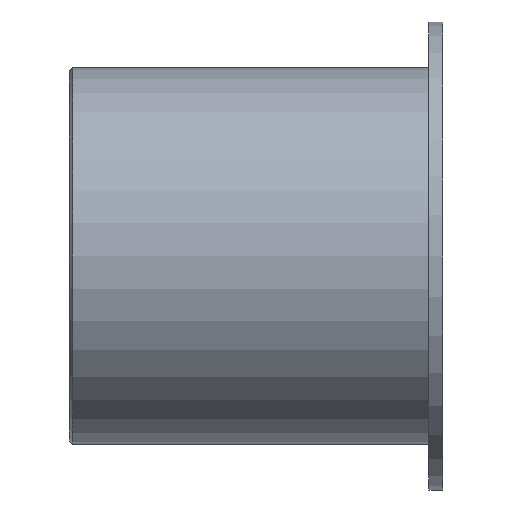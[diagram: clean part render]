
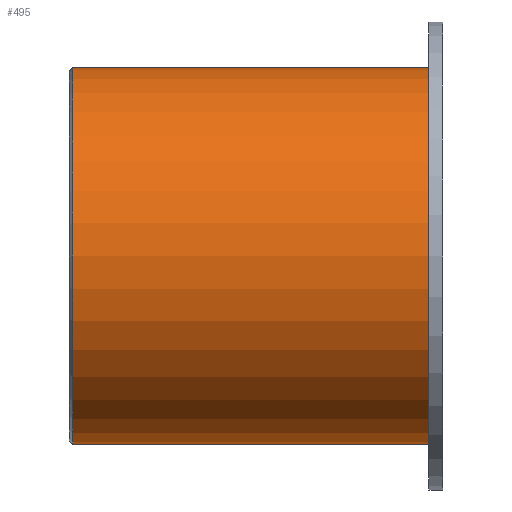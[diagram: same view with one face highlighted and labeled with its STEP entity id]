
A CAD part, front view. The second image highlights one B-rep face of the part: STEP entity #495.
In plain terms, the highlighted cylindrical face has radius 27 mm (diameter 54 mm), a full revolution.
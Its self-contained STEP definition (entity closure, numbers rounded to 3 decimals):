
#18=CYLINDRICAL_SURFACE('',#547,27.);
#36=FACE_BOUND('',#97,.T.);
#63=FACE_OUTER_BOUND('',#96,.T.);
#96=EDGE_LOOP('',(#397));
#97=EDGE_LOOP('',(#398));
#195=CIRCLE('',#546,27.);
#196=CIRCLE('',#548,27.);
#242=VERTEX_POINT('',#832);
#243=VERTEX_POINT('',#835);
#301=EDGE_CURVE('',#242,#242,#195,.T.);
#302=EDGE_CURVE('',#243,#243,#196,.T.);
#397=ORIENTED_EDGE('',*,*,#302,.T.);
#398=ORIENTED_EDGE('',*,*,#301,.F.);
#495=ADVANCED_FACE('',(#63,#36),#18,.T.);
#546=AXIS2_PLACEMENT_3D('',#833,#670,#671);
#547=AXIS2_PLACEMENT_3D('',#834,#672,#673);
#548=AXIS2_PLACEMENT_3D('',#836,#674,#675);
#670=DIRECTION('center_axis',(-1.,0.,0.));
#671=DIRECTION('ref_axis',(0.,0.,-1.));
#672=DIRECTION('center_axis',(1.,0.,0.));
#673=DIRECTION('ref_axis',(0.,0.,-1.));
#674=DIRECTION('center_axis',(-1.,0.,0.));
#675=DIRECTION('ref_axis',(0.,0.,-1.));
#832=CARTESIAN_POINT('',(0.5,0.,27.));
#833=CARTESIAN_POINT('Origin',(0.5,0.,0.));
#834=CARTESIAN_POINT('Origin',(0.,0.,0.));
#835=CARTESIAN_POINT('',(51.5,0.,27.));
#836=CARTESIAN_POINT('Origin',(51.5,0.,0.));
